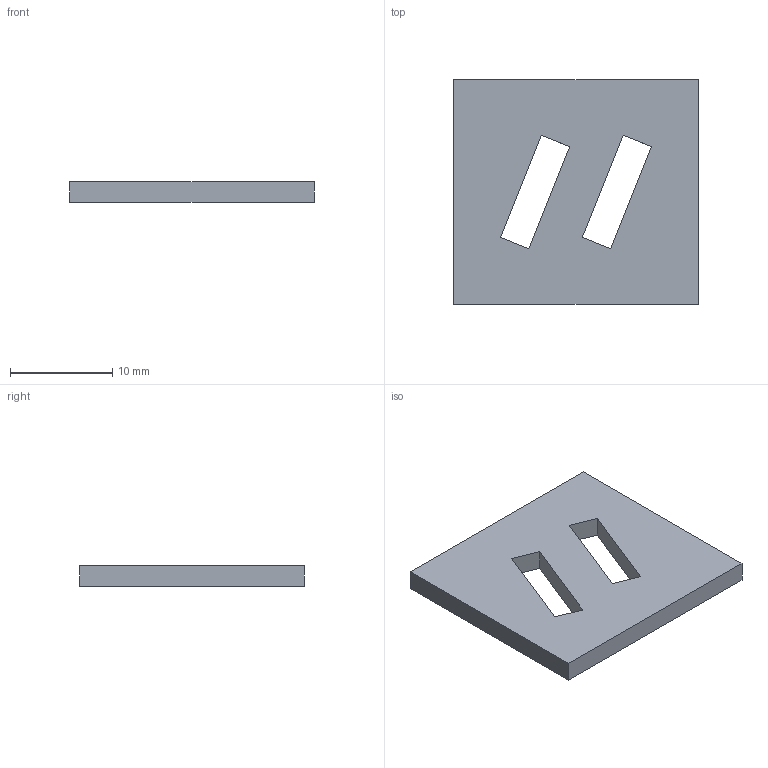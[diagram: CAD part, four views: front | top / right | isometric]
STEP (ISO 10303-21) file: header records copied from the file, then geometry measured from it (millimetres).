
FILE_DESCRIPTION(('Open CASCADE Model'),'2;1');
FILE_NAME('Open CASCADE Shape Model','2026-11-19T06:40:37',('Author'),( 'Open CASCADE'),'Open CASCADE STEP processor 8.0','Open CASCADE 8.0' ,'Unknown');
FILE_SCHEMA(('AUTOMOTIVE_DESIGN { 1 0 10303 214 1 1 1 1 }'));
Length unit declared in the file: millimetre
Products named in the file (1): Open CASCADE STEP translator 8.0 26
Bounding box: 24 x 22 x 2 mm (x, y, z)
Volume: 926.8 mm3; surface area: 1220.9 mm2
Topology: 1 solids, 1 shells, 14 faces, 36 edges, 24 vertices
Faces by surface type: plane 14
Entity records: 874 total; most frequent: CARTESIAN_POINT 179, DIRECTION 106, LINE 76, VECTOR 76, ORIENTED_EDGE 72, PCURVE 72, DEFINITIONAL_REPRESENTATION 72, EDGE_CURVE 36
